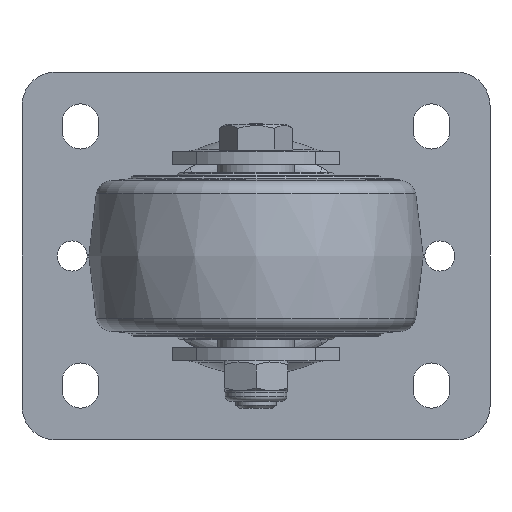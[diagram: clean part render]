
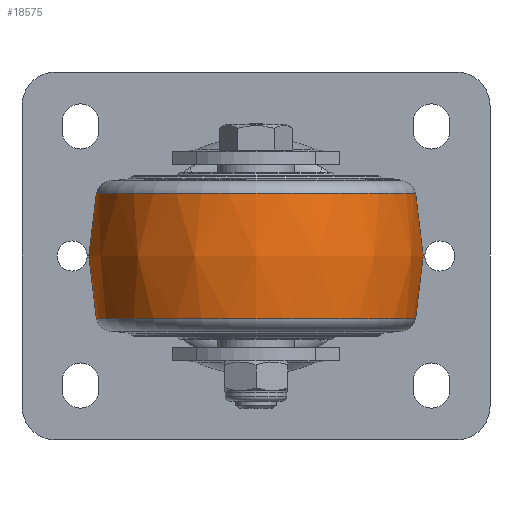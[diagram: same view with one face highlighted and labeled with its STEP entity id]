
A CAD part, front view. The second image highlights one B-rep face of the part: STEP entity #18575.
In plain terms, the highlighted free-form (B-spline) face has degree [2, 2] with [3, 9] control points.
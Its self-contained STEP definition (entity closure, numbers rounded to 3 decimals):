
#23=(
BOUNDED_SURFACE()
B_SPLINE_SURFACE(2,2,((#36074,#36075,#36076,#36077,#36078,#36079,#36080,
#36081,#36082),(#36083,#36084,#36085,#36086,#36087,#36088,#36089,#36090,
#36091),(#36092,#36093,#36094,#36095,#36096,#36097,#36098,#36099,#36100)),
 .UNSPECIFIED.,.F.,.T.,.F.)
B_SPLINE_SURFACE_WITH_KNOTS((3,3),(3,2,2,2,3),(-0.236,0.236),
(-3.142,-1.571,0.,1.571,3.142),
 .UNSPECIFIED.)
GEOMETRIC_REPRESENTATION_ITEM()
RATIONAL_B_SPLINE_SURFACE(((1.,0.707,1.,0.707,1.,
0.707,1.,0.707,1.),(0.972,0.687,
0.972,0.687,0.972,0.687,
0.972,0.687,0.972),(1.,0.707,
1.,0.707,1.,0.707,1.,0.707,1.)))
REPRESENTATION_ITEM('')
SURFACE()
);
#3313=FACE_OUTER_BOUND('',#4457,.T.);
#4457=EDGE_LOOP('',(#17404,#17405,#17406,#17407));
#7349=CIRCLE('',#19424,47.779);
#7351=CIRCLE('',#19426,47.779);
#7352=CIRCLE('',#19427,80.);
#9193=VERTEX_POINT('',#36071);
#9194=VERTEX_POINT('',#36101);
#11938=EDGE_CURVE('',#9193,#9193,#7349,.T.);
#11940=EDGE_CURVE('',#9194,#9194,#7351,.T.);
#11941=EDGE_CURVE('',#9194,#9193,#7352,.T.);
#17404=ORIENTED_EDGE('',*,*,#11940,.F.);
#17405=ORIENTED_EDGE('',*,*,#11941,.T.);
#17406=ORIENTED_EDGE('',*,*,#11938,.T.);
#17407=ORIENTED_EDGE('',*,*,#11941,.F.);
#18575=ADVANCED_FACE('',(#3313),#23,.F.);
#19424=AXIS2_PLACEMENT_3D('',#36072,#22431,#22432);
#19426=AXIS2_PLACEMENT_3D('',#36102,#22435,#22436);
#19427=AXIS2_PLACEMENT_3D('',#36103,#22437,#22438);
#22431=DIRECTION('center_axis',(0.,0.,1.));
#22432=DIRECTION('ref_axis',(0.,-1.,0.));
#22435=DIRECTION('center_axis',(0.,0.,1.));
#22436=DIRECTION('ref_axis',(0.,-1.,0.));
#22437=DIRECTION('center_axis',(-1.,0.,0.));
#22438=DIRECTION('ref_axis',(0.,1.,0.));
#36071=CARTESIAN_POINT('',(0.,-44.221,-18.721));
#36072=CARTESIAN_POINT('Origin',(0.,-92.,-18.721));
#36074=CARTESIAN_POINT('Ctrl Pts',(0.,-44.221,
-18.721));
#36075=CARTESIAN_POINT('Ctrl Pts',(-47.779,-44.221,
-18.721));
#36076=CARTESIAN_POINT('Ctrl Pts',(-47.779,-92.,-18.721));
#36077=CARTESIAN_POINT('Ctrl Pts',(-47.779,-139.779,
-18.721));
#36078=CARTESIAN_POINT('Ctrl Pts',(0.,-139.779,
-18.721));
#36079=CARTESIAN_POINT('Ctrl Pts',(47.779,-139.779,-18.721));
#36080=CARTESIAN_POINT('Ctrl Pts',(47.779,-92.,-18.721));
#36081=CARTESIAN_POINT('Ctrl Pts',(47.779,-44.221,-18.721));
#36082=CARTESIAN_POINT('Ctrl Pts',(0.,-44.221,
-18.721));
#36083=CARTESIAN_POINT('Ctrl Pts',(0.,-39.715,
0.));
#36084=CARTESIAN_POINT('Ctrl Pts',(-52.285,-39.715,
0.));
#36085=CARTESIAN_POINT('Ctrl Pts',(-52.285,-92.,0.));
#36086=CARTESIAN_POINT('Ctrl Pts',(-52.285,-144.285,
0.));
#36087=CARTESIAN_POINT('Ctrl Pts',(0.,-144.285,
0.));
#36088=CARTESIAN_POINT('Ctrl Pts',(52.285,-144.285,0.));
#36089=CARTESIAN_POINT('Ctrl Pts',(52.285,-92.,0.));
#36090=CARTESIAN_POINT('Ctrl Pts',(52.285,-39.715,0.));
#36091=CARTESIAN_POINT('Ctrl Pts',(0.,-39.715,
0.));
#36092=CARTESIAN_POINT('Ctrl Pts',(0.,-44.221,
18.721));
#36093=CARTESIAN_POINT('Ctrl Pts',(-47.779,-44.221,
18.721));
#36094=CARTESIAN_POINT('Ctrl Pts',(-47.779,-92.,18.721));
#36095=CARTESIAN_POINT('Ctrl Pts',(-47.779,-139.779,
18.721));
#36096=CARTESIAN_POINT('Ctrl Pts',(0.,-139.779,
18.721));
#36097=CARTESIAN_POINT('Ctrl Pts',(47.779,-139.779,18.721));
#36098=CARTESIAN_POINT('Ctrl Pts',(47.779,-92.,18.721));
#36099=CARTESIAN_POINT('Ctrl Pts',(47.779,-44.221,18.721));
#36100=CARTESIAN_POINT('Ctrl Pts',(0.,-44.221,
18.721));
#36101=CARTESIAN_POINT('',(0.,-44.221,18.721));
#36102=CARTESIAN_POINT('Origin',(0.,-92.,18.721));
#36103=CARTESIAN_POINT('Origin',(0.,-122.,0.));
